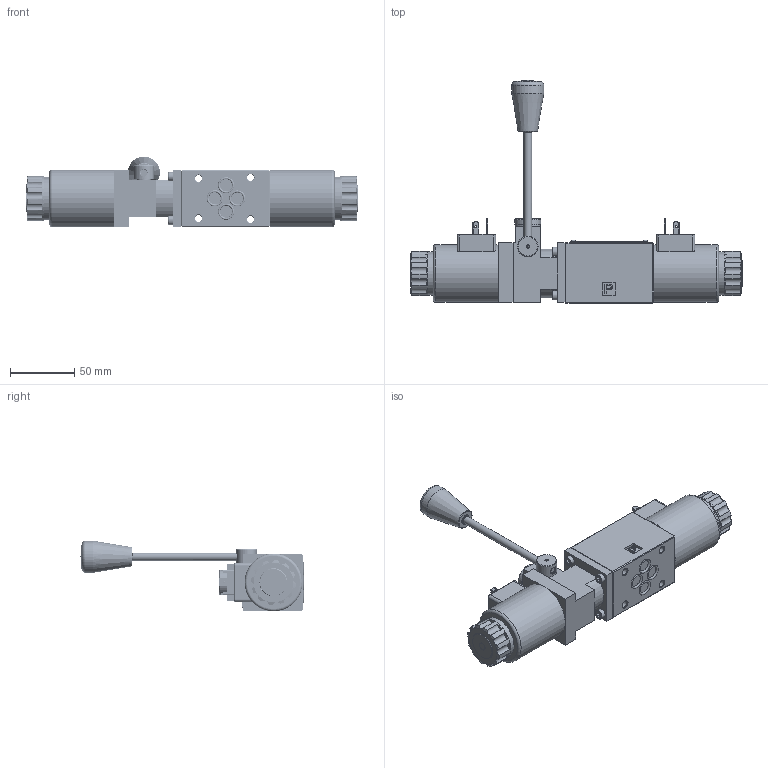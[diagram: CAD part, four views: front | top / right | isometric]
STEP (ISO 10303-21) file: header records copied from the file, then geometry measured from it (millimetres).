
FILE_DESCRIPTION(/* description */ (''),/* implementation_level */ '2;1');
FILE_NAME(/* name */ '4WEMM6-6XJ电磁手动换向阀（三位阀）.prt.stp',/* time_stamp */ '2022-03-30T19:40:50+08:00',/* author */ (''),/* organization */ (''),/* preprocessor_version */ 'ST-DEVELOPER v16.7',/* originating_system */ 'SIEMENS PLM Software NX 12.0',/* authorisation */ '');
FILE_SCHEMA (('AUTOMOTIVE_DESIGN { 1 0 10303 214 3 1 1 1 }'));
Products named in the file (1): 4WEMM6-6XJ电磁手动换向阀（三位阀）
Bounding box: 258.4 x 173.62 x 55 mm (x, y, z)
Volume: 447070.4 mm3; surface area: 119021.8 mm2
Topology: 59 solids, 65 shells, 1572 faces, 3999 edges, 2609 vertices
Faces by surface type: plane 907, cylinder 418, cone 87, torus 57, bspline 56, extrusion 41, sphere 6
Full cylindrical faces by diameter (mm): 1.65 x6, 1.8 x4, 2 x11, 2.2 x2, 2.5 x2, 3 x2, 3.2 x4, 4 x66, 4.6 x5, 5 x1, 5.3 x4, 6 x32, 7 x4, 7.2 x1, 8 x3, 8.7 x2, 9 x1, 9.2 x2, 9.4 x4, 9.5 x2, 10.5 x1, 11 x6, 11.4 x2, 12 x8, 12.2 x2, 12.5 x1, 14 x1, 14.3 x1, 14.5 x2, 16 x1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
Entity records: 89116 total; most frequent: CARTESIAN_POINT 53851, ORIENTED_EDGE 6782, DIRECTION 6464, EDGE_CURVE 3391, VERTEX_POINT 2346, VECTOR 2230, LINE 2189, AXIS2_PLACEMENT_3D 2117
